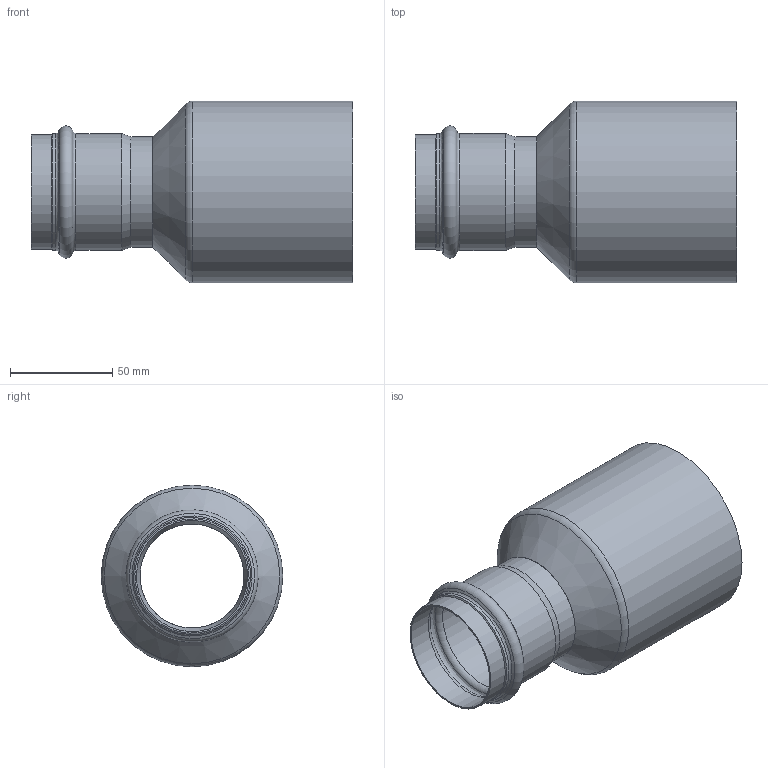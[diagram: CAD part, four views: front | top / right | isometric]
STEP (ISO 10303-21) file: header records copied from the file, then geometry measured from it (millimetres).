
FILE_DESCRIPTION((''),'2;1');
FILE_NAME('G:\Technics\CAD\Bauteile\089\692438954(1).stp','2008-03-10T15:33:16',('herberg'),(''),'Autodesk Inventor 2008','Autodesk Inventor 2008','');
FILE_SCHEMA(('AUTOMOTIVE_DESIGN { 1 0 10303 214 1 1 1 1 }'));
Length unit declared in the file: millimetre
Products named in the file (3): 692438954(1); R_692438954(1); 6924354HM(1)
Assembly tree (2 placements, depth 2):
  692438954(1)
    R_692438954(1)
    6924354HM(1)
Bounding box: 157.5 x 88.9 x 88.9 mm (x, y, z)
Volume: 69856.9 mm3; surface area: 77933.5 mm2
Topology: 2 solids, 2 shells, 29 faces, 54 edges, 29 vertices
Faces by surface type: cylinder 10, cone 7, torus 4, bspline 4, plane 4
Full cylindrical faces by diameter (mm): 51 x2, 54 x1, 54.35 x2, 55.95 x1, 57.35 x2, 84.9 x1, 88.9 x1
Entity records: 870 total; most frequent: CARTESIAN_POINT 304, DIRECTION 118, AXIS2_PLACEMENT_3D 59, ORIENTED_EDGE 58, EDGE_LOOP 58, VERTEX_POINT 29, CIRCLE 29, EDGE_CURVE 29
